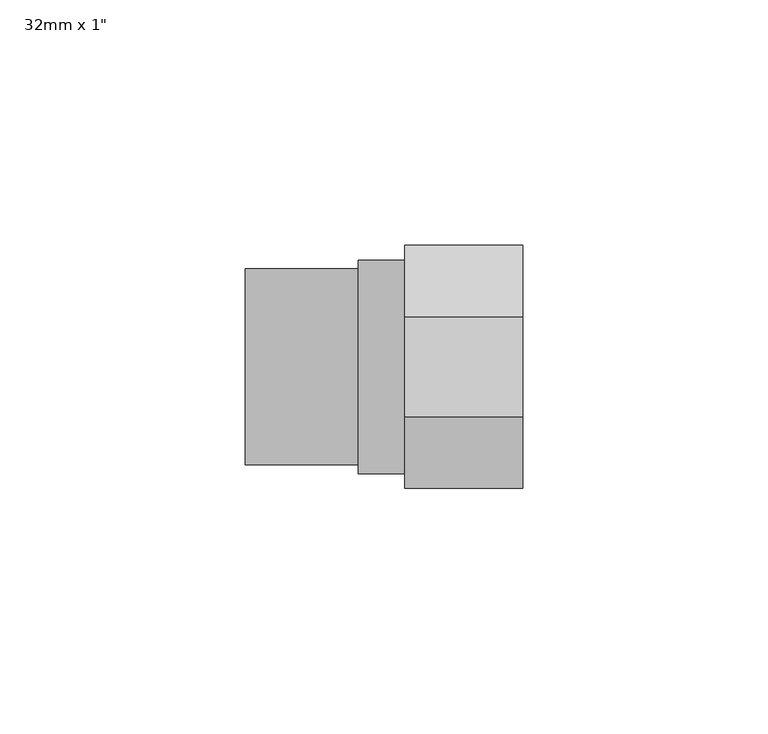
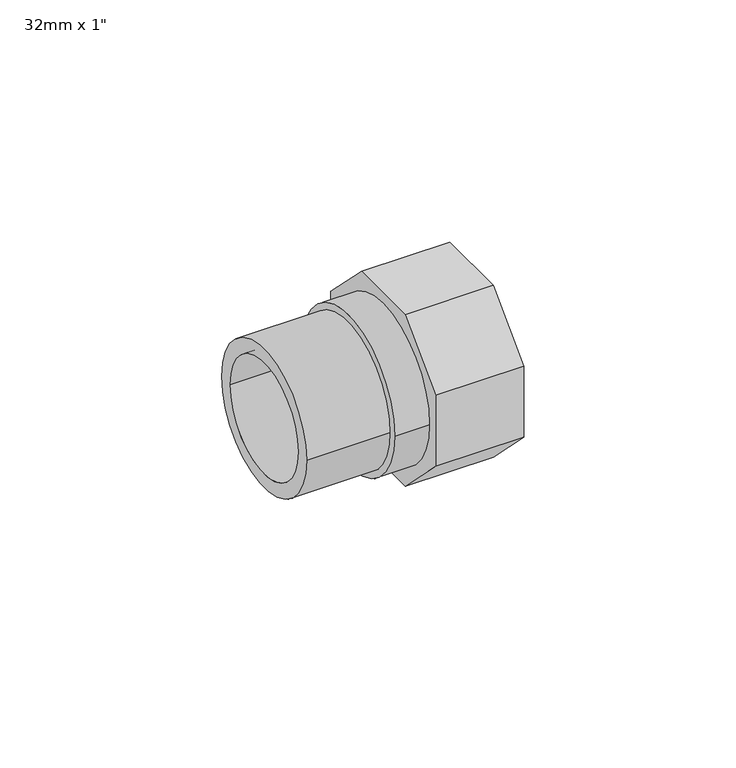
"""IFC4 building model written with IfcOpenShell, lengths in millimetres: pipe fitting geometry."""

import ifcopenshell
import ifcopenshell.guid

model = None  # the IFC model being written
_history = None  # IfcOwnerHistory: only IFC2X3 demands one
_inside = {}  # id of a spatial element -> (the spatial element, [elements in it])
_under = {}  # id of a project, library or spatial element -> (it, [spatial elements below it])
_declared = {}  # id of a project -> (the project, [libraries it declares])
_typed = {}  # id of a type object -> (the type object, [elements of that type])
_made_of = {}  # id of a material, layer set ... -> (it, [elements and type objects made of it])


def new_model(schema):
    """Start an empty IFC model of exactly this schema.

    Asked for "IFC4X3", IfcOpenShell would pick the latest addendum, in which some entities
    have other attributes; the version numbers below select the first issue.
    IFC2X3 requires an IfcOwnerHistory on every rooted entity: one is made here for all.
    """
    global model, _history
    if schema == "IFC4X3":
        model = ifcopenshell.file(schema_version=(4, 3, 0, 0))
    else:
        model = ifcopenshell.file(schema=schema)
    _inside.clear()
    _under.clear()
    _declared.clear()
    _typed.clear()
    _made_of.clear()
    _history = None
    if model.schema == "IFC2X3":
        org = make("IfcOrganization", Name="unknown")
        user = make(
            "IfcPersonAndOrganization",
            ThePerson=make("IfcPerson", FamilyName="unknown"),
            TheOrganization=org,
        )
        app = make(
            "IfcApplication",
            ApplicationDeveloper=org,
            Version="unknown",
            ApplicationFullName="unknown",
            ApplicationIdentifier="unknown",
        )
        _history = make(
            "IfcOwnerHistory",
            OwningUser=user,
            OwningApplication=app,
            ChangeAction="ADDED",
            CreationDate=0,
        )
    return model


def make(cls, **values):
    """One entity of the class cls with the attributes given. An attribute that is None is left unset."""
    return model.create_entity(
        cls, **{name: value for name, value in values.items() if value is not None}
    )


def rooted(cls, **values):
    """An entity with a GlobalId (a new one), such as an element, a storey or a relation."""
    return make(cls, GlobalId=ifcopenshell.guid.new(), OwnerHistory=_history, **values)


def si_unit(unit_type, name, prefix=None):
    """IfcSIUnit, for example si_unit("LENGTHUNIT", "METRE", prefix="MILLI")."""
    return make("IfcSIUnit", UnitType=unit_type, Prefix=prefix, Name=name)


def assignment(units):
    """IfcUnitAssignment: the units of a project."""
    return None if units is None else make("IfcUnitAssignment", Units=units)


def point(xyz):
    """IfcCartesianPoint."""
    return None if xyz is None else make("IfcCartesianPoint", Coordinates=xyz)


def direction(xyz):
    """IfcDirection."""
    return None if xyz is None else make("IfcDirection", DirectionRatios=xyz)


def frame(location, z_axis=None, x_axis=None):
    """IfcAxis2Placement3D, a coordinate frame: its origin and axes. An axis left out is left unset."""
    return make(
        "IfcAxis2Placement3D",
        Location=point(location),
        Axis=direction(z_axis),
        RefDirection=direction(x_axis),
    )


def frame_2d(location, x_axis=None):
    """IfcAxis2Placement2D, a coordinate frame in the plane: its origin and x axis."""
    return make(
        "IfcAxis2Placement2D", Location=point(location), RefDirection=direction(x_axis)
    )


def origin():
    """The frame at (0, 0, 0) with its axes left unset."""
    return frame((0.0, 0.0, 0.0))


def origin_2d():
    """The frame at (0, 0) in the plane with its x axis left unset."""
    return frame_2d((0.0, 0.0))


def place(relative_to, where):
    """IfcLocalPlacement: puts the frame where relative to a parent placement (None: the world)."""
    return make(
        "IfcLocalPlacement", PlacementRelTo=relative_to, RelativePlacement=where
    )


def context(
    kind, dimensions, precision=None, world=None, true_north=None, identifier=None
):
    """IfcGeometricRepresentationContext, for example the 3D "Model" context."""
    return make(
        "IfcGeometricRepresentationContext",
        ContextIdentifier=identifier,
        ContextType=kind,
        CoordinateSpaceDimension=dimensions,
        Precision=precision,
        WorldCoordinateSystem=world,
        TrueNorth=true_north,
    )


def project(units=None, contexts=None):
    """IfcProject with its units and contexts."""
    return rooted(
        "IfcProject",
        Name="project",
        RepresentationContexts=contexts,
        UnitsInContext=assignment(units),
    )


def spatial(cls, under=None, at=None, **own):
    """A site, building, storey or space (cls), placed at a placement, below another one or the project."""
    s = rooted(cls, ObjectPlacement=at, **own)
    if under is not None:
        _under.setdefault(under.id(), (under, []))[1].append(s)
    return s


def polyline(points):
    """IfcPolyline through the points."""
    return make("IfcPolyline", Points=[point(p) for p in points])


def circle_curve(where, radius):
    """IfcCircle in the frame where."""
    return make("IfcCircle", Position=where, Radius=radius)


def trimmed(basis, trim1, trim2, sense, master):
    """IfcTrimmedCurve: the piece of a basis curve between two trims."""
    return make(
        "IfcTrimmedCurve",
        BasisCurve=basis,
        Trim1=trim1,
        Trim2=trim2,
        SenseAgreement=sense,
        MasterRepresentation=master,
    )


def segment(curve, same_sense, transition):
    """IfcCompositeCurveSegment."""
    return make(
        "IfcCompositeCurveSegment",
        Transition=transition,
        SameSense=same_sense,
        ParentCurve=curve,
    )


def composite_curve(segments, self_intersect=None):
    """IfcCompositeCurve: segments joined end to end."""
    return make("IfcCompositeCurve", Segments=segments, SelfIntersect=self_intersect)


def outline(outer, holes=None, kind="AREA"):
    """IfcArbitraryClosedProfileDef: a profile drawn as a closed curve; with holes, ...WithVoids."""
    if holes is None:
        return make("IfcArbitraryClosedProfileDef", ProfileType=kind, OuterCurve=outer)
    return make(
        "IfcArbitraryProfileDefWithVoids",
        ProfileType=kind,
        OuterCurve=outer,
        InnerCurves=holes,
    )


def extrude(swept, where, along, depth):
    """IfcExtrudedAreaSolid: the profile swept, set in the frame where, extruded along a direction by depth."""
    return make(
        "IfcExtrudedAreaSolid",
        SweptArea=swept,
        Position=where,
        ExtrudedDirection=direction(along),
        Depth=depth,
    )


def shape(context_of_items, identifier, shape_type, items):
    """IfcShapeRepresentation: the items that make up one representation, for example the "Body"."""
    return make(
        "IfcShapeRepresentation",
        ContextOfItems=context_of_items,
        RepresentationIdentifier=identifier,
        RepresentationType=shape_type,
        Items=items,
    )


def source(mapping_origin, context_of_items, identifier, shape_type, items):
    """IfcRepresentationMap: a shape defined once, which mapped items show again and again."""
    return make(
        "IfcRepresentationMap",
        MappingOrigin=mapping_origin,
        MappedRepresentation=shape(context_of_items, identifier, shape_type, items),
    )


def transform(
    local_origin,
    x_axis=None,
    y_axis=None,
    z_axis=None,
    scale=None,
    scale2=None,
    scale3=None,
    uniform=True,
):
    """IfcCartesianTransformationOperator3D, or its non-uniform kind. x_axis, y_axis, z_axis: its Axis1, 2, 3."""
    if uniform:
        return make(
            "IfcCartesianTransformationOperator3D",
            Axis1=direction(x_axis),
            Axis2=direction(y_axis),
            LocalOrigin=point(local_origin),
            Scale=scale,
            Axis3=direction(z_axis),
        )
    return make(
        "IfcCartesianTransformationOperator3DnonUniform",
        Axis1=direction(x_axis),
        Axis2=direction(y_axis),
        LocalOrigin=point(local_origin),
        Scale=scale,
        Axis3=direction(z_axis),
        Scale2=scale2,
        Scale3=scale3,
    )


def mapped(mapping_source, mapping_target):
    """IfcMappedItem: shows the shape of a source again, moved by a transform."""
    return make(
        "IfcMappedItem", MappingSource=mapping_source, MappingTarget=mapping_target
    )


def made_of(thing, what):
    """Note that an element or type object is made of a material, layer set ...; save() writes the relation."""
    if what is not None:
        _made_of.setdefault(what.id(), (what, []))[1].append(thing)
    return thing


def element(
    cls,
    number,
    at=None,
    inside=None,
    cuts=None,
    type_object=None,
    material=None,
    context=None,
    identifier="Body",
    shape_type=None,
    held_by="IfcProductDefinitionShape",
    body=None,
    shapes=None,
    **own,
):
    """One element of the class cls, such as IfcWall. Its Tag is "e" and its number.

    at: its placement. inside: the storey or other place that contains it. cuts: it is an
    opening in that element (IfcRelVoidsElement). A single representation is given by context,
    identifier, shape_type and body (its items); several are given by shapes. held_by: the class
    of the entity that holds the representations. save() writes the other relations.
    """
    e = rooted(cls, Tag="e%d" % number, ObjectPlacement=at, **own)
    if body is not None:
        shapes = [shape(context, identifier, shape_type, body)]
    if shapes is not None:
        e.Representation = make(held_by, Representations=shapes)
    if inside is not None:
        _inside.setdefault(inside.id(), (inside, []))[1].append(e)
    if cuts is not None:
        rooted(
            "IfcRelVoidsElement", RelatingBuildingElement=cuts, RelatedOpeningElement=e
        )
    if type_object is not None:
        _typed.setdefault(type_object.id(), (type_object, []))[1].append(e)
    return made_of(e, material)


def aggregate(whole, parts):
    """IfcRelAggregates: a whole, such as a stair, and the parts it consists of."""
    return rooted("IfcRelAggregates", RelatingObject=whole, RelatedObjects=parts)


def save(model, path):
    """Write the relations noted so far, then the file.

    IfcRelAggregates (storeys below a building ...), IfcRelContainedInSpatialStructure (elements
    in a storey), IfcRelDefinesByType, IfcRelAssociatesMaterial and IfcRelDeclares: one each for
    every whole, place, type object, material and project.
    """
    for whole, parts in _under.values():
        aggregate(whole, parts)
    for where, things in _inside.values():
        rooted(
            "IfcRelContainedInSpatialStructure",
            RelatedElements=things,
            RelatingStructure=where,
        )
    for kind, things in _typed.values():
        rooted("IfcRelDefinesByType", RelatedObjects=things, RelatingType=kind)
    for what, things in _made_of.values():
        rooted("IfcRelAssociatesMaterial", RelatedObjects=things, RelatingMaterial=what)
    for by, libraries in _declared.values():
        rooted("IfcRelDeclares", RelatingContext=by, RelatedDefinitions=libraries)
    model.write(path)


def plane_surface(at):
    """IfcPlane: the flat surface through the origin of the frame at, square to its z axis."""
    return make("IfcPlane", Position=at)


def revolved_surface(curve, axis_point, axis_direction):
    """IfcSurfaceOfRevolution: the curve turned about the line through axis_point along axis_direction."""
    return make(
        "IfcSurfaceOfRevolution",
        SweptCurve=make("IfcArbitraryOpenProfileDef", ProfileType="CURVE", Curve=curve),
        AxisPosition=make("IfcAxis1Placement", Location=point(axis_point), Axis=direction(axis_direction)),
    )


def advanced_brep(points, edges, surfaces, faces):
    """IfcAdvancedBrep: a solid bounded by faces that lie on surfaces and meet in shared edges.

    An edge is (start, end): straight between two places in points (the first is 0);
    or (start, end, curve); or (start, end, curve, False) where it runs against its curve.
    A face is (place in surfaces, loops), or (place, loops, False) where it looks against
    its surface's normal. A loop lists edges by number (the first is 1), with a minus sign
    where the edge is run from its end to its start. The first loop is the outer one.
    """
    corners = [point(p) for p in points]
    vertices = [make("IfcVertexPoint", VertexGeometry=c) for c in corners]
    made = []
    for start, end, *more in edges:
        made.append(
            make(
                "IfcEdgeCurve",
                EdgeStart=vertices[start],
                EdgeEnd=vertices[end],
                EdgeGeometry=more[0] if more else make("IfcPolyline", Points=[corners[start], corners[end]]),
                SameSense=more[1] if len(more) > 1 else True,
            )
        )
    hull = []
    for where, loops, *sense in faces:
        bounds = []
        for j, loop in enumerate(loops):
            ring = [make("IfcOrientedEdge", EdgeElement=made[abs(k) - 1], Orientation=k > 0) for k in loop]
            bounds.append(
                make(
                    "IfcFaceOuterBound" if j == 0 else "IfcFaceBound",
                    Bound=make("IfcEdgeLoop", EdgeList=ring),
                    Orientation=True,
                )
            )
        hull.append(make("IfcAdvancedFace", Bounds=bounds, FaceSurface=surfaces[where], SameSense=sense[0] if sense else True))
    return make("IfcAdvancedBrep", Outer=make("IfcClosedShell", CfsFaces=hull))


def pipe_fitting_d3e3ceca(model_context):
    return source(origin(), model_context, "Body", "SolidModel", [
        extrude(outline(composite_curve([segment(trimmed(circle_curve(origin_2d(), 21.75), [point((-21.75, 0.0))], [point((21.75, 0.0))], False, "CARTESIAN"), True, "CONTINUOUS"), segment(trimmed(circle_curve(origin_2d(), 21.75), [point((21.75, 0.0))], [point((-21.75, 0.0))], False, "CARTESIAN"), True, "CONTINUOUS")], self_intersect=False), holes=[composite_curve([segment(trimmed(circle_curve(origin_2d(), 13.0), [point((-13.0, 0.0))], [point((13.0, 0.0))], True, "CARTESIAN"), True, "CONTINUOUS"), segment(trimmed(circle_curve(origin_2d(), 13.0), [point((13.0, 0.0))], [point((-13.0, 0.0))], True, "CARTESIAN"), True, "CONTINUOUS")], self_intersect=False)]), frame((11.5, 0.0, 0.0), z_axis=(1.0, 0.0, 0.0), x_axis=(0.0, 1.0, 0.0)), (0.0, 0.0, 1.0), 9.5),
        advanced_brep(
        [(21.0, 10.2517857, 24.75), (21.0, 24.75, 10.2517857), (21.0, 24.75, -10.2517857), (21.0, 10.2517857, -24.75), (21.0, -10.2517857, -24.75), (21.0, -24.75, -10.2517857), (21.0, -24.75, 10.2517857), (21.0, -10.2517857, 24.75), (21.0, -13.0, 0.0), (21.0, 13.0, 0.0), (45.0, 10.2517857, 24.75), (45.0, -10.2517857, 24.75), (45.0, -24.75, 10.2517857), (45.0, -24.75, -10.2517857), (45.0, -10.2517857, -24.75), (45.0, 10.2517857, -24.75), (45.0, 24.75, -10.2517857), (45.0, 24.75, 10.2517857), (45.0, 16.5, 0.0), (45.0, -16.5, 0.0), (44.8, 16.5, 0.0), (44.8, -16.5, 0.0), (44.8, 13.0, 0.0), (44.8, -13.0, 0.0)],
        [
            (0, 1),
            (1, 2),
            (2, 3),
            (3, 4),
            (4, 5),
            (5, 6),
            (6, 7),
            (7, 0),
            (8, 9, circle_curve(frame((21.0, 0.0, 0.0), z_axis=(1.0, 0.0, 0.0), x_axis=(0.0, -1.0, 0.0)), 13.0)),
            (9, 8, circle_curve(frame((21.0, 0.0, 0.0), z_axis=(1.0, 0.0, 0.0), x_axis=(0.0, -1.0, 0.0)), 13.0)),
            (10, 11),
            (11, 12),
            (12, 13),
            (13, 14),
            (14, 15),
            (15, 16),
            (16, 17),
            (17, 10),
            (18, 19, circle_curve(frame((45.0, 0.0, 0.0), z_axis=(-1.0, 0.0, 0.0), x_axis=(0.0, -1.0, 0.0)), 16.5)),
            (19, 18, circle_curve(frame((45.0, 0.0, 0.0), z_axis=(-1.0, 0.0, 0.0), x_axis=(0.0, -1.0, 0.0)), 16.5)),
            (0, 10),
            (17, 1),
            (16, 2),
            (15, 3),
            (14, 4),
            (13, 5),
            (12, 6),
            (11, 7),
            (20, 21, circle_curve(frame((44.8, 0.0, 0.0), z_axis=(1.0, 0.0, 0.0), x_axis=(0.0, -1.0, 0.0)), 16.5)),
            (21, 20, circle_curve(frame((44.8, 0.0, 0.0), z_axis=(1.0, 0.0, 0.0), x_axis=(0.0, -1.0, 0.0)), 16.5)),
            (22, 23, circle_curve(frame((44.8, 0.0, 0.0), z_axis=(-1.0, 0.0, 0.0), x_axis=(0.0, -1.0, 0.0)), 13.0)),
            (23, 22, circle_curve(frame((44.8, 0.0, 0.0), z_axis=(-1.0, 0.0, 0.0), x_axis=(0.0, -1.0, 0.0)), 13.0)),
            (21, 19),
            (18, 20),
            (22, 9),
            (8, 23),
        ],
        [
            plane_surface(frame((21.0, 0.0, 0.0), z_axis=(-1.0, 0.0, 0.0), x_axis=(0.0, 0.0, 1.0))),
            plane_surface(frame((45.0, 0.0, 0.0), z_axis=(1.0, 0.0, 0.0), x_axis=(0.0, 0.0, 1.0))),
            plane_surface(frame((21.0, 10.2517857, 24.75), z_axis=(0.0, 0.7071067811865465, 0.7071067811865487), x_axis=(1.0, 0.0, 0.0))),
            plane_surface(frame((21.0, 24.75, 10.2517857), z_axis=(0.0, 1.0, 0.0), x_axis=(1.0, 0.0, 0.0))),
            plane_surface(frame((21.0, 24.75, -10.2517857), z_axis=(0.0, 0.7071067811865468, -0.7071067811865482), x_axis=(1.0, 0.0, 0.0))),
            plane_surface(frame((21.0, 10.2517857, -24.75), z_axis=(0.0, 0.0, -1.0), x_axis=(1.0, 0.0, 0.0))),
            plane_surface(frame((21.0, -10.2517857, -24.75), z_axis=(0.0, -0.7071067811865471, -0.7071067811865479), x_axis=(1.0, 0.0, 0.0))),
            plane_surface(frame((21.0, -24.75, -10.2517857), z_axis=(0.0, -1.0, 0.0), x_axis=(1.0, 0.0, 0.0))),
            plane_surface(frame((21.0, -24.75, 10.2517857), z_axis=(0.0, -0.707106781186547, 0.707106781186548), x_axis=(1.0, 0.0, 0.0))),
            plane_surface(frame((21.0, -10.2517857, 24.75), z_axis=(0.0, 0.0, 1.0), x_axis=(1.0, 0.0, 0.0))),
            plane_surface(frame((44.8, -16.5, 0.0), z_axis=(1.0, 0.0, 0.0), x_axis=(0.0, 0.0, 1.0))),
            revolved_surface(polyline([(44.8, -16.5, 0.0), (45.0, -16.5, 0.0)]), (45.0, 0.0, 0.0), (-1.0, 0.0, 0.0)),
            revolved_surface(polyline([(21.0, -13.0, 0.0), (44.8, -13.0, 0.0)]), (45.0, 0.0, 0.0), (-1.0, 0.0, 0.0)),
        ],
        [
            (0, [[1, 2, 3, 4, 5, 6, 7, 8], [9, 10]]),
            (1, [[11, 12, 13, 14, 15, 16, 17, 18], [19, 20]]),
            (2, [[-1, 21, -18, 22]]),
            (3, [[-2, -22, -17, 23]]),
            (4, [[-3, -23, -16, 24]]),
            (5, [[-4, -24, -15, 25]]),
            (6, [[-5, -25, -14, 26]]),
            (7, [[-6, -26, -13, 27]]),
            (8, [[-7, -27, -12, 28]]),
            (9, [[-8, -28, -11, -21]]),
            (10, [[29, 30], [31, 32]]),
            (11, [[-30, 33, -19, 34]]),
            (11, [[-29, -34, -20, -33]]),
            (12, [[35, -9, 36, -31]]),
            (12, [[-35, -32, -36, -10]]),
        ],
    ),
        extrude(outline(composite_curve([segment(trimmed(circle_curve(origin_2d(), 20.0), [point((-20.0, 0.0))], [point((20.0, 0.0))], False, "CARTESIAN"), True, "CONTINUOUS"), segment(trimmed(circle_curve(origin_2d(), 20.0), [point((20.0, 0.0))], [point((-20.0, 0.0))], False, "CARTESIAN"), True, "CONTINUOUS")], self_intersect=False), holes=[composite_curve([segment(trimmed(circle_curve(origin_2d(), 16.0), [point((-16.0, 0.0))], [point((16.0, 0.0))], True, "CARTESIAN"), True, "CONTINUOUS"), segment(trimmed(circle_curve(origin_2d(), 16.0), [point((16.0, 0.0))], [point((-16.0, 0.0))], True, "CARTESIAN"), True, "CONTINUOUS")], self_intersect=False)]), frame((-11.5, 0.0, 0.0), z_axis=(1.0, 0.0, 0.0), x_axis=(0.0, 1.0, 0.0)), (0.0, 0.0, 1.0), 23.0),
    ])


if __name__ == "__main__":
    model = new_model("IFC4")
    model_context = context("Model", 3, world=origin())
    ifc_project = project(units=[si_unit("LENGTHUNIT", "METRE", prefix="MILLI")], contexts=[model_context])
    site = spatial("IfcSite", under=ifc_project)
    building = spatial("IfcBuilding", under=site)
    placement = place(None, origin())
    pipe_fitting_shape = pipe_fitting_d3e3ceca(model_context)
    element("IfcPipeFitting", 1, ObjectType="PipeFitting_HTA_CPVC_ThreadedAdaptors : 32mm x 1\"", at=placement, inside=building, context=model_context, shape_type="MappedRepresentation", body=[
        mapped(pipe_fitting_shape, transform((0.0, 0.0, 0.0), x_axis=(1.0, 0.0, 0.0), y_axis=(0.0, 1.0, 0.0), z_axis=(0.0, 0.0, 1.0))),
    ])
    save(model, "model.ifc")
